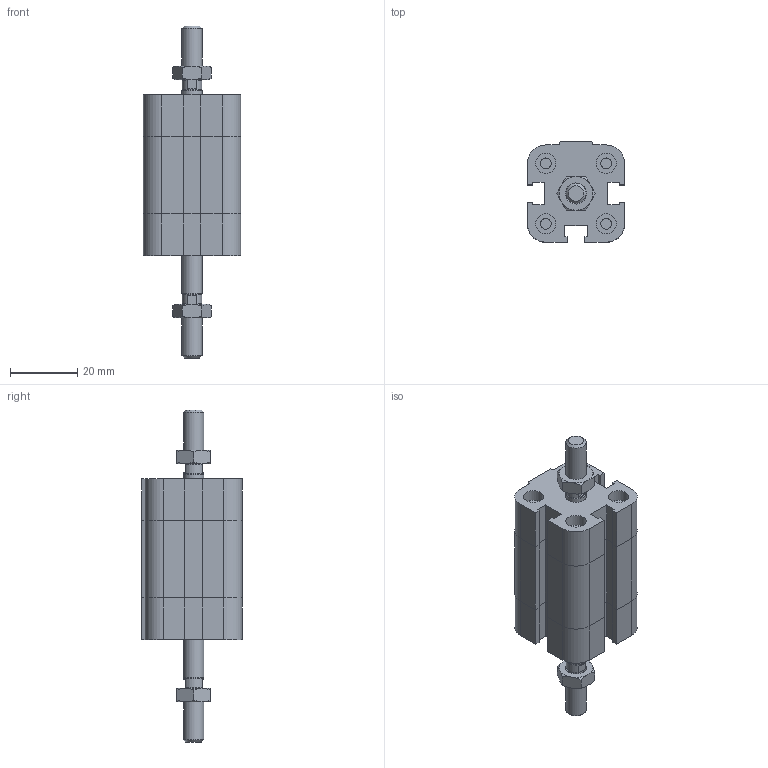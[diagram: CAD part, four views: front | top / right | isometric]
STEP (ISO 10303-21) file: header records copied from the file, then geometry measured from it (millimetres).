
FILE_DESCRIPTION((''),'2;1');
FILE_NAME('I:\Area Tecnica\Disegni\VARIE-3D\Componenti\EUROPE\15##_###_####_04_#\1581_12_0010_04_1.iam.stp','2009-04-20T14:49:08',(''),(''),'Autodesk Inventor 2009','Autodesk Inventor 2009','');
FILE_SCHEMA(('AUTOMOTIVE_DESIGN { 1 0 10303 214 1 1 1 1 }'));
Length unit declared in the file: millimetre
Products named in the file (4): 1581_12_0010_04_1; 1581_12_0010_03_1_C; 1561_12_0010_04_1_S; DBM6
Assembly tree (4 placements, depth 2):
  1581_12_0010_04_1
    1581_12_0010_03_1_C
    1561_12_0010_04_1_S
    DBM6  x2
Bounding box: 29 x 30 x 99 mm (x, y, z)
Volume: 35007.2 mm3; surface area: 13876.6 mm2
Topology: 4 solids, 4 shells, 224 faces, 491 edges, 293 vertices
Faces by surface type: plane 131, cone 35, bspline 33, cylinder 25
Full cylindrical faces by diameter (mm): 3.242 x4, 5 x1, 5.8 x2, 6 x6
Entity records: 5503 total; most frequent: CARTESIAN_POINT 1232, DIRECTION 814, ORIENTED_EDGE 784, EDGE_CURVE 392, AXIS2_PLACEMENT_3D 276, VECTOR 262, LINE 262, EDGE_LOOP 258
